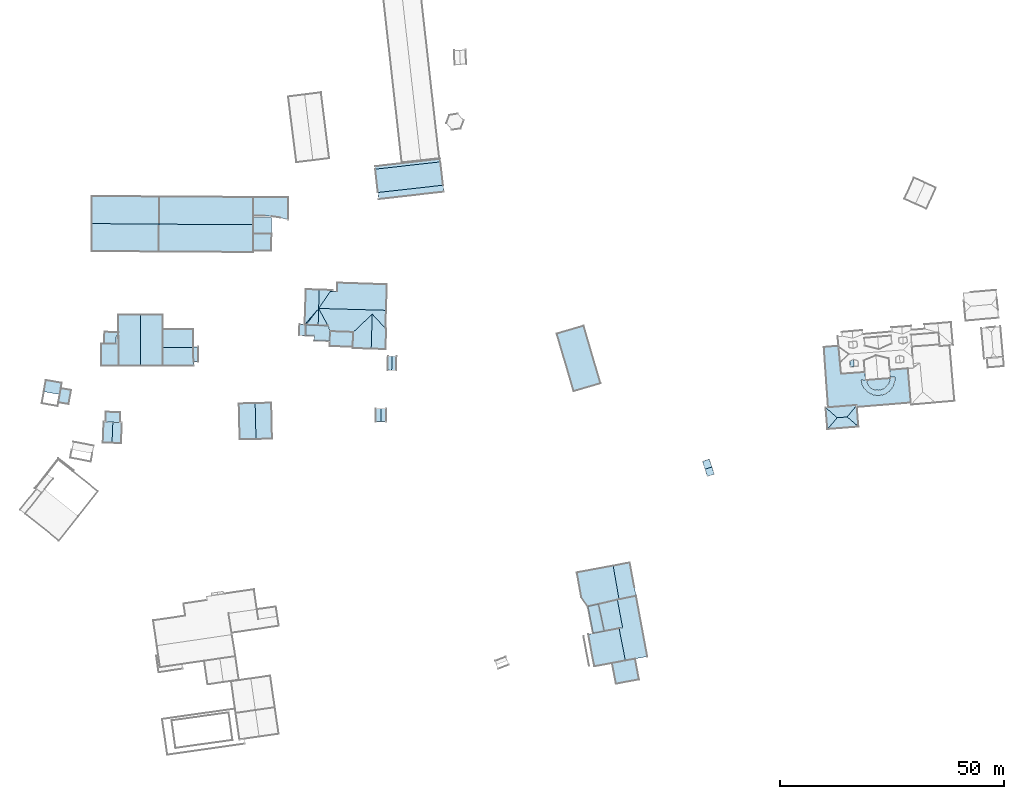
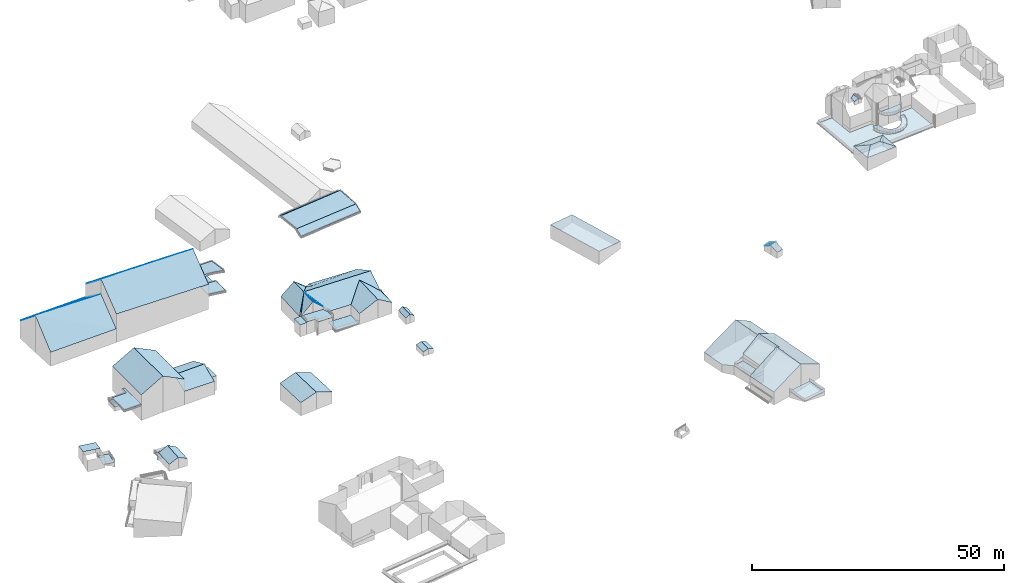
# Not in any storey, part 55 of 59: 56 roofs.
"""IFC4 building model written with IfcOpenShell, lengths in metres."""

from ifc_helpers import new_model, entity, si_unit, converted_unit, origin, place, context, subcontext, project, spatial, face_set, surface_model, element, save


model = new_model("IFC4")

# Units and contexts
model_context = context("Model", 3, precision=1e-05, world=origin())
body_context = subcontext(model_context, "Body", "Model", "MODEL_VIEW")
ifc_project = project(units=[converted_unit("PLANEANGLEUNIT", "DEGREE", entity("IfcRatioMeasure", 0.0174532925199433), si_unit("PLANEANGLEUNIT", "RADIAN"), dimensions=[0, 0, 0, 0, 0, 0, 0]), si_unit("AREAUNIT", "SQUARE_METRE"), si_unit("LENGTHUNIT", "METRE")], contexts=[model_context])

# Site, building
site_placement = place(None, origin())
site = spatial("IfcSite", under=ifc_project, at=site_placement, Name="_site")
building_1_placement = place(site_placement, origin())
building_1 = spatial("IfcBuilding", under=site, at=building_1_placement, Name="_building")

# Roofs
roof_1_placement = place(building_1_placement, origin())
element("IfcRoof", 1, at=roof_1_placement, inside=building_1, Name="Roof", PredefinedType="NOTDEFINED", context=body_context, shape_type="SurfaceModel", body=[
    surface_model("IfcFaceBasedSurfaceModel", [(66.73, 78.01, 213.7), (68.76, 77.93, 212.77), (68.96, 82.561, 212.75), (68.53, 82.58, 212.967), (66.92, 82.64, 213.78)], [face_set([[[0, 1, 2, 3, 4]]])]),
])
roof_2_placement = place(building_1_placement, origin())
element("IfcRoof", 2, at=roof_2_placement, inside=building_1, Name="Roof", PredefinedType="NOTDEFINED", context=body_context, shape_type="SurfaceModel", body=[
    surface_model("IfcFaceBasedSurfaceModel", [(65.29, 82.702, 211.075), (66.92, 82.64, 211.075), (68.53, 82.58, 211.075), (68.6, 84.85, 211.096), (65.36, 84.949, 211.096)], [face_set([[[0, 1, 2, 3, 4]]])]),
])
roof_3_placement = place(building_1_placement, origin())
element("IfcRoof", 3, at=roof_3_placement, inside=building_1, Name="Roof", PredefinedType="NOTDEFINED", context=body_context, shape_type="SurfaceModel", body=[
    surface_model("IfcFaceBasedSurfaceModel", [(66.92, 82.64, 213.78), (65.29, 82.702, 212.885), (64.88, 82.721, 212.66), (64.69, 78.1, 212.67), (66.73, 78.01, 213.7)], [face_set([[[0, 1, 2, 3, 4]]])]),
])

# Building
building_2_placement = place(site_placement, origin())
building_2 = spatial("IfcBuilding", under=site, at=building_2_placement, Name="_building")

# Roofs
roof_4_placement = place(building_2_placement, origin())
element("IfcRoof", 4, at=roof_4_placement, inside=building_2, Name="Roof", PredefinedType="NOTDEFINED", context=body_context, shape_type="SurfaceModel", body=[
    surface_model("IfcFaceBasedSurfaceModel", [(98.3, 128.42, 215.71), (98.28, 124.811, 215.71), (102.36, 124.779, 214.75), (102.38, 128.4, 214.75)], [face_set([[[0, 1, 2, 3]]])]),
])
roof_5_placement = place(building_2_placement, origin())
element("IfcRoof", 5, at=roof_5_placement, inside=building_2, Name="Roof", PredefinedType="NOTDEFINED", context=body_context, shape_type="SurfaceModel", body=[
    surface_model("IfcFaceBasedSurfaceModel", [(98.28, 124.76, 216.16), (98.26, 120.939, 216.16), (102.35, 120.92, 215.69), (102.37, 124.74, 215.69)], [face_set([[[0, 1, 2, 3]]])]),
])

# Building
building_3_placement = place(site_placement, origin())
building_3 = spatial("IfcBuilding", under=site, at=building_3_placement, Name="_building")

# Roofs
roof_6_placement = place(building_3_placement, origin())
element("IfcRoof", 6, at=roof_6_placement, inside=building_3, Name="Roof", PredefinedType="NOTDEFINED", context=body_context, shape_type="SurfaceModel", body=[
    surface_model("IfcFaceBasedSurfaceModel", [(199.24, 72.141, 222.3), (199.77, 70.52, 221.35), (201.3, 71.029, 221.35), (200.78, 72.641, 222.3)], [face_set([[[0, 1, 2, 3]]])]),
])
roof_7_placement = place(building_3_placement, origin())
element("IfcRoof", 7, at=roof_7_placement, inside=building_3, Name="Roof", PredefinedType="NOTDEFINED", context=body_context, shape_type="SurfaceModel", body=[
    surface_model("IfcFaceBasedSurfaceModel", [(200.78, 72.641, 222.3), (200.21, 74.381, 221.35), (198.67, 73.881, 221.35), (199.24, 72.141, 222.3)], [face_set([[[0, 1, 2, 3]]])]),
])

# Building
building_4_placement = place(site_placement, origin())
building_4 = spatial("IfcBuilding", under=site, at=building_4_placement, Name="_building")

# Roofs
roof_8_placement = place(building_4_placement, origin())
element("IfcRoof", 8, at=roof_8_placement, inside=building_4, Name="Roof", PredefinedType="NOTDEFINED", context=body_context, shape_type="SurfaceModel", body=[
    surface_model("IfcFaceBasedSurfaceModel", [(98.9, 78.859, 217.75), (102.51, 78.949, 216.52), (102.33, 86.971, 216.46), (98.71, 86.881, 217.76)], [face_set([[[0, 1, 2, 3]]])]),
])
roof_9_placement = place(building_4_placement, origin())
element("IfcRoof", 9, at=roof_9_placement, inside=building_4, Name="Roof", PredefinedType="NOTDEFINED", context=body_context, shape_type="SurfaceModel", body=[
    surface_model("IfcFaceBasedSurfaceModel", [(98.71, 86.881, 217.76), (95.09, 86.801, 216.45), (95.28, 78.779, 216.51), (98.9, 78.859, 217.75)], [face_set([[[0, 1, 2, 3]]])]),
])

# Building
building_5_placement = place(site_placement, origin())
building_5 = spatial("IfcBuilding", under=site, at=building_5_placement, Name="_building")

# Roofs
roof_10_placement = place(building_5_placement, origin())
element("IfcRoof", 10, at=roof_10_placement, inside=building_5, Name="Roof", PredefinedType="NOTDEFINED", context=body_context, shape_type="SurfaceModel", body=[
    surface_model("IfcFaceBasedSurfaceModel", [(64.99, 100.199, 213.082), (67.63, 100.199, 213.082), (67.62, 101.859, 213.082), (68.18, 101.859, 213.082), (68.18, 102.689, 213.082), (65.06, 102.83, 213.082)], [face_set([[[0, 1, 2, 3, 4, 5]]])]),
])
roof_11_placement = place(building_5_placement, origin())
element("IfcRoof", 11, at=roof_11_placement, inside=building_5, Name="Roof", PredefinedType="NOTDEFINED", context=body_context, shape_type="SurfaceModel", body=[
    surface_model("IfcFaceBasedSurfaceModel", [(68.19, 95.221, 215.66), (68.18, 101.859, 215.66), (67.62, 101.859, 215.66), (67.63, 100.199, 215.65), (64.28, 100.199, 215.59), (64.29, 95.211, 215.59)], [face_set([[[0, 1, 2, 3, 4, 5]]])]),
])

# Building
building_6_placement = place(site_placement, origin())
building_6 = spatial("IfcBuilding", under=site, at=building_6_placement, Name="_building")

# Roofs
roof_12_placement = place(building_6_placement, origin())
element("IfcRoof", 12, at=roof_12_placement, inside=building_6, Name="Roof", PredefinedType="NOTDEFINED", context=body_context, shape_type="SurfaceModel", body=[
    surface_model("IfcFaceBasedSurfaceModel", [(231.0, 83.82, 229.35), (228.76, 83.641, 229.35), (226.6, 81.08, 228.58), (233.54, 81.641, 228.5)], [face_set([[[0, 1, 2, 3]]])]),
])
roof_13_placement = place(building_6_placement, origin())
element("IfcRoof", 13, at=roof_13_placement, inside=building_6, Name="Roof", PredefinedType="NOTDEFINED", context=body_context, shape_type="SurfaceModel", body=[
    surface_model("IfcFaceBasedSurfaceModel", [(228.76, 83.641, 229.35), (226.21, 85.91, 228.59), (226.6, 81.08, 228.58)], [face_set([[[0, 1, 2]]])]),
])
roof_14_placement = place(building_6_placement, origin())
element("IfcRoof", 14, at=roof_14_placement, inside=building_6, Name="Roof", PredefinedType="NOTDEFINED", context=body_context, shape_type="SurfaceModel", body=[
    surface_model("IfcFaceBasedSurfaceModel", [(233.54, 81.641, 228.5), (233.188, 86.01, 228.5), (233.15, 86.461, 228.5), (231.0, 83.82, 229.35)], [face_set([[[0, 1, 2, 3]]])]),
])
roof_15_placement = place(building_6_placement, origin())
element("IfcRoof", 15, at=roof_15_placement, inside=building_6, Name="Roof", PredefinedType="NOTDEFINED", context=body_context, shape_type="SurfaceModel", body=[
    surface_model("IfcFaceBasedSurfaceModel", [(231.0, 83.82, 229.35), (233.15, 86.461, 228.5), (226.75, 85.951, 228.583), (226.21, 85.91, 228.59), (228.76, 83.641, 229.35)], [face_set([[[0, 1, 2, 3, 4]]])]),
])

# Building
building_7_placement = place(site_placement, origin())
building_7 = spatial("IfcBuilding", under=site, at=building_7_placement, Name="_building")

# Roofs
roof_16_placement = place(building_7_placement, origin())
element("IfcRoof", 16, at=roof_16_placement, inside=building_7, Name="Roof", PredefinedType="NOTDEFINED", context=body_context, shape_type="SurfaceModel", body=[
    surface_model("IfcFaceBasedSurfaceModel", [(240.651, 92.699, 226.71), (240.67, 92.461, 226.72), (240.58, 92.451, 226.73), (240.57, 92.02, 226.666), (240.3, 91.34, 226.577), (240.0, 90.85, 226.519), (239.61, 90.449, 226.479), (239.24, 90.15, 226.454), (238.83, 89.99, 226.452), (238.36, 89.83, 226.454), (237.91, 89.779, 226.473), (237.43, 89.811, 226.506), (236.87, 89.971, 226.565), (236.35, 90.24, 226.64), (235.92, 90.619, 226.728), (235.63, 91.09, 226.825), (235.41, 91.58, 226.885), (235.35, 92.039, 226.89), (235.11, 92.02, 226.86), (235.1, 92.15, 226.86), (234.13, 92.029, 226.852), (234.21, 91.49, 226.847), (234.4, 90.869, 226.81), (234.69, 90.34, 226.706), (235.13, 89.801, 226.592), (235.66, 89.34, 226.486), (236.26, 88.98, 226.394), (236.91, 88.74, 226.318), (237.41, 88.65, 226.275), (237.94, 88.631, 226.243), (238.57, 88.67, 226.214), (239.24, 88.85, 226.205), (239.86, 89.18, 226.223), (240.42, 89.561, 226.253), (240.97, 90.189, 226.321), (241.34, 90.84, 226.402), (241.56, 91.49, 226.491), (241.68, 92.109, 226.58), (241.65, 92.73, 226.676)], [face_set([[[0, 1, 2, 3, 4, 5, 6, 7, 8, 9, 10, 11, 12, 13, 14, 15, 16, 17, 18, 19, 20, 21, 22, 23, 24, 25, 26, 27, 28, 29, 30, 31, 32, 33, 34, 35, 36, 37, 38]]])]),
])
roof_17_placement = place(building_7_placement, origin())
element("IfcRoof", 17, at=roof_17_placement, inside=building_7, Name="Roof", PredefinedType="NOTDEFINED", context=body_context, shape_type="SurfaceModel", body=[
    surface_model("IfcFaceBasedSurfaceModel", [(240.58, 92.451, 229.819), (237.87, 92.23, 229.819), (235.35, 92.039, 229.819), (235.41, 91.58, 229.832), (235.63, 91.09, 229.832), (235.92, 90.619, 229.832), (236.35, 90.24, 229.832), (236.87, 89.971, 229.832), (237.43, 89.811, 229.832), (237.91, 89.779, 229.832), (238.36, 89.83, 229.832), (238.83, 89.99, 229.832), (239.24, 90.15, 229.832), (239.61, 90.449, 229.832), (240.0, 90.85, 229.832), (240.3, 91.34, 229.832), (240.57, 92.02, 229.832)], [face_set([[[0, 1, 2, 3, 4, 5, 6, 7, 8, 9, 10, 11, 12, 13, 14, 15, 16]]])]),
])
roof_18_placement = place(building_7_placement, origin())
element("IfcRoof", 18, at=roof_18_placement, inside=building_7, Name="Roof", PredefinedType="NOTDEFINED", context=body_context, shape_type="SurfaceModel", body=[
    surface_model("IfcFaceBasedSurfaceModel", [(232.58, 95.09, 232.29), (232.41, 96.699, 232.491), (231.56, 96.221, 232.133), (231.66, 95.01, 231.96)], [face_set([[[0, 1, 2, 3]]])]),
])
roof_19_placement = place(building_7_placement, origin())
element("IfcRoof", 19, at=roof_19_placement, inside=building_7, Name="Roof", PredefinedType="NOTDEFINED", context=body_context, shape_type="SurfaceModel", body=[
    surface_model("IfcFaceBasedSurfaceModel", [(226.75, 85.951, 226.16), (233.15, 86.461, 226.165), (233.188, 86.01, 226.165), (245.24, 87.0, 226.18), (244.58, 94.66, 226.183), (240.53, 94.311, 226.183), (240.651, 92.699, 226.17), (241.65, 92.73, 226.17), (241.68, 92.109, 226.17), (241.34, 90.84, 226.17), (240.97, 90.189, 226.17), (240.42, 89.561, 226.17), (239.24, 88.85, 226.17), (238.57, 88.67, 226.17), (237.94, 88.631, 226.17), (237.41, 88.65, 226.17), (236.91, 88.74, 226.17), (236.26, 88.98, 226.17), (235.66, 89.34, 226.17), (235.13, 89.801, 226.17), (234.69, 90.34, 226.17), (234.4, 90.869, 226.17), (234.21, 91.49, 226.17), (234.13, 92.029, 226.17), (235.1, 92.15, 226.163), (234.96, 93.82, 226.163), (229.67, 93.439, 226.163), (229.42, 95.902, 226.163), (229.102, 99.438, 226.163), (229.079, 99.689, 226.16), (225.81, 99.41, 226.16)], [face_set([[[0, 1, 2, 3, 4, 5, 6, 7, 8, 9, 10, 11, 12, 13, 14, 15, 16, 17, 18, 19, 20, 21, 22, 23, 24, 25, 26, 27, 28, 29, 30]]])]),
])

# Building
building_8_placement = place(site_placement, origin())
building_8 = spatial("IfcBuilding", under=site, at=building_8_placement, Name="_building")

# Roofs
roof_20_placement = place(building_8_placement, origin())
element("IfcRoof", 20, at=roof_20_placement, inside=building_8, Name="Roof", PredefinedType="NOTDEFINED", context=body_context, shape_type="SurfaceModel", body=[
    surface_model("IfcFaceBasedSurfaceModel", [(55.06, 88.83, 213.45), (55.51, 91.41, 213.16), (51.96, 92.039, 213.16), (51.51, 89.461, 213.45)], [face_set([[[0, 1, 2, 3]]])]),
])
roof_21_placement = place(building_8_placement, origin())
element("IfcRoof", 21, at=roof_21_placement, inside=building_8, Name="Roof", PredefinedType="NOTDEFINED", context=body_context, shape_type="SurfaceModel", body=[
    surface_model("IfcFaceBasedSurfaceModel", [(54.75, 87.061, 210.66), (57.04, 86.66, 210.66), (57.59, 89.811, 210.66), (55.3, 90.211, 210.66)], [face_set([[[0, 1, 2, 3]]])]),
])

# Building
building_9_placement = place(site_placement, origin())
building_9 = spatial("IfcBuilding", under=site, at=building_9_placement, Name="_building")

# Roofs
roof_22_placement = place(building_9_placement, origin())
element("IfcRoof", 22, at=roof_22_placement, inside=building_9, Name="Roof", PredefinedType="NOTDEFINED", context=body_context, shape_type="SurfaceModel", body=[
    surface_model("IfcFaceBasedSurfaceModel", [(73.1, 106.66, 220.74), (68.17, 106.66, 217.98), (68.19, 95.221, 217.93), (73.11, 95.221, 220.74)], [face_set([[[0, 1, 2, 3]]])]),
])
roof_23_placement = place(building_9_placement, origin())
element("IfcRoof", 23, at=roof_23_placement, inside=building_9, Name="Roof", PredefinedType="NOTDEFINED", context=body_context, shape_type="SurfaceModel", body=[
    surface_model("IfcFaceBasedSurfaceModel", [(78.04, 99.32, 216.88), (78.04, 95.221, 215.31), (84.94, 95.23, 215.31), (84.94, 96.17, 215.71), (84.93, 99.33, 217.09)], [face_set([[[0, 1, 2, 3, 4]]])]),
])
roof_24_placement = place(building_9_placement, origin())
element("IfcRoof", 24, at=roof_24_placement, inside=building_9, Name="Roof", PredefinedType="NOTDEFINED", context=body_context, shape_type="SurfaceModel", body=[
    surface_model("IfcFaceBasedSurfaceModel", [(84.93, 99.33, 217.09), (84.93, 99.49, 217.02), (84.93, 103.43, 215.31), (78.04, 103.42, 215.31), (78.04, 99.32, 216.88)], [face_set([[[0, 1, 2, 3, 4]]])]),
])
roof_25_placement = place(building_9_placement, origin())
element("IfcRoof", 25, at=roof_25_placement, inside=building_9, Name="Roof", PredefinedType="NOTDEFINED", context=body_context, shape_type="SurfaceModel", body=[
    surface_model("IfcFaceBasedSurfaceModel", [(84.93, 99.49, 215.83), (84.93, 99.33, 215.824), (84.94, 96.17, 215.7), (86.0, 96.17, 215.73), (86.0, 99.49, 215.78)], [face_set([[[0, 1, 2, 3, 4]]])]),
])
roof_26_placement = place(building_9_placement, origin())
element("IfcRoof", 26, at=roof_26_placement, inside=building_9, Name="Roof", PredefinedType="NOTDEFINED", context=body_context, shape_type="SurfaceModel", body=[
    surface_model("IfcFaceBasedSurfaceModel", [(73.11, 95.221, 220.74), (78.04, 95.221, 218.32), (78.04, 99.32, 218.335), (78.04, 103.42, 218.35), (78.03, 106.67, 218.36), (73.1, 106.66, 220.74)], [face_set([[[0, 1, 2, 3, 4, 5]]])]),
])

# Building
building_10_placement = place(site_placement, origin())
building_10 = spatial("IfcBuilding", under=site, at=building_10_placement, Name="_building")

# Roofs
roof_27_placement = place(building_10_placement, origin())
element("IfcRoof", 27, at=roof_27_placement, inside=building_10, Name="Roof", PredefinedType="NOTDEFINED", context=body_context, shape_type="SurfaceModel", body=[
    surface_model("IfcFaceBasedSurfaceModel", [(178.71, 50.561, 224.56), (170.62, 49.051, 220.44), (171.61, 43.57, 220.36), (173.07, 41.461, 220.87), (175.45, 42.0, 222.17), (179.66, 42.948, 224.376), (180.03, 43.028, 224.57)], [face_set([[[0, 1, 2, 3, 4, 5, 6]]])]),
])
roof_28_placement = place(building_10_placement, origin())
element("IfcRoof", 28, at=roof_28_placement, inside=building_10, Name="Roof", PredefinedType="NOTDEFINED", context=body_context, shape_type="SurfaceModel", body=[
    surface_model("IfcFaceBasedSurfaceModel", [(180.04, 36.561, 226.04), (176.75, 35.941, 224.161), (174.26, 35.48, 222.74), (173.17, 35.27, 222.11), (174.52, 28.07, 222.11), (181.44, 29.369, 225.69)], [face_set([[[0, 1, 2, 3, 4, 5]]])]),
])
roof_29_placement = place(building_10_placement, origin())
element("IfcRoof", 29, at=roof_29_placement, inside=building_10, Name="Roof", PredefinedType="NOTDEFINED", context=body_context, shape_type="SurfaceModel", body=[
    surface_model("IfcFaceBasedSurfaceModel", [(180.03, 43.028, 224.57), (183.83, 43.811, 222.52), (182.44, 51.26, 222.51), (178.71, 50.561, 224.56)], [face_set([[[0, 1, 2, 3]]])]),
])
roof_30_placement = place(building_10_placement, origin())
element("IfcRoof", 30, at=roof_30_placement, inside=building_10, Name="Roof", PredefinedType="NOTDEFINED", context=body_context, shape_type="SurfaceModel", body=[
    surface_model("IfcFaceBasedSurfaceModel", [(179.66, 42.948, 225.5), (175.45, 42.0, 222.65), (176.75, 35.941, 222.28), (180.04, 36.561, 224.893), (180.83, 36.711, 225.52)], [face_set([[[0, 1, 2, 3, 4]]])]),
])
roof_31_placement = place(building_10_placement, origin())
element("IfcRoof", 31, at=roof_31_placement, inside=building_10, Name="Roof", PredefinedType="NOTDEFINED", context=body_context, shape_type="SurfaceModel", body=[
    surface_model("IfcFaceBasedSurfaceModel", [(178.49, 28.82, 220.545), (179.36, 24.18, 220.545), (184.5, 25.15, 220.545), (183.63, 29.779, 220.545)], [face_set([[[0, 1, 2, 3]]])]),
])
roof_32_placement = place(building_10_placement, origin())
element("IfcRoof", 32, at=roof_32_placement, inside=building_10, Name="Roof", PredefinedType="NOTDEFINED", context=body_context, shape_type="SurfaceModel", body=[
    surface_model("IfcFaceBasedSurfaceModel", [(176.75, 35.939, 220.96), (175.45, 42.0, 220.96), (173.07, 41.461, 220.96), (174.26, 35.48, 220.96)], [face_set([[[0, 1, 2, 3]]])]),
])
roof_33_placement = place(building_10_placement, origin())
element("IfcRoof", 33, at=roof_33_placement, inside=building_10, Name="Roof", PredefinedType="NOTDEFINED", context=body_context, shape_type="SurfaceModel", body=[
    surface_model("IfcFaceBasedSurfaceModel", [(174.26, 35.48, 220.78), (176.75, 35.941, 220.76), (175.45, 42.0, 220.76), (173.07, 41.461, 220.87)], [face_set([[[0, 1, 2, 3]]])]),
])
roof_34_placement = place(building_10_placement, origin())
element("IfcRoof", 34, at=roof_34_placement, inside=building_10, Name="Roof", PredefinedType="NOTDEFINED", context=body_context, shape_type="SurfaceModel", body=[
    surface_model("IfcFaceBasedSurfaceModel", [(180.83, 36.711, 225.52), (180.04, 36.561, 226.04), (181.44, 29.369, 225.69), (186.37, 30.289, 223.39), (183.83, 43.811, 223.46), (180.03, 43.028, 225.319), (179.66, 42.948, 225.5)], [face_set([[[0, 1, 2, 3, 4, 5, 6]]])]),
])

# Building
building_11_placement = place(site_placement, origin())
building_11 = spatial("IfcBuilding", under=site, at=building_11_placement, Name="_building")

# Roof
roof_35_placement = place(building_11_placement, origin())
element("IfcRoof", 35, at=roof_35_placement, inside=building_11, Name="Roof", PredefinedType="NOTDEFINED", context=body_context, shape_type="SurfaceModel", body=[
    surface_model("IfcFaceBasedSurfaceModel", [(169.91, 89.57, 220.55), (175.89, 91.33, 219.84), (172.13, 104.17, 219.84), (166.14, 102.41, 220.55)], [face_set([[[0, 1, 2, 3]]])]),
])

# Building
building_12_placement = place(site_placement, origin())
building_12 = spatial("IfcBuilding", under=site, at=building_12_placement, Name="_building")

# Roofs
roof_36_placement = place(building_12_placement, origin())
element("IfcRoof", 36, at=roof_36_placement, inside=building_12, Name="Roof", PredefinedType="NOTDEFINED", context=body_context, shape_type="SurfaceModel", body=[
    surface_model("IfcFaceBasedSurfaceModel", [(127.84, 103.59, 217.27), (127.98, 107.641, 219.6), (112.9, 108.061, 219.51), (115.01, 104.15, 217.53), (115.48, 102.949, 216.86), (120.64, 102.77, 216.87), (124.88, 106.789, 218.97)], [face_set([[[0, 1, 2, 3, 4, 5, 6]]])]),
])
roof_37_placement = place(building_12_placement, origin())
element("IfcRoof", 37, at=roof_37_placement, inside=building_12, Name="Roof", PredefinedType="NOTDEFINED", context=body_context, shape_type="SurfaceModel", body=[
    surface_model("IfcFaceBasedSurfaceModel", [(112.9, 108.061, 219.445), (113.02, 112.24, 219.44), (110.06, 112.34, 216.8), (109.79, 104.461, 216.79), (110.07, 104.391, 216.76), (112.79, 104.259, 219.45)], [face_set([[[0, 1, 2, 3, 4, 5]]])]),
])
roof_38_placement = place(building_12_placement, origin())
element("IfcRoof", 38, at=roof_38_placement, inside=building_12, Name="Roof", PredefinedType="NOTDEFINED", context=body_context, shape_type="SurfaceModel", body=[
    surface_model("IfcFaceBasedSurfaceModel", [(124.88, 106.789, 218.97), (120.64, 102.77, 216.87), (120.52, 99.18, 216.92), (124.64, 99.051, 219.0)], [face_set([[[0, 1, 2, 3]]])]),
])
roof_39_placement = place(building_12_placement, origin())
element("IfcRoof", 39, at=roof_39_placement, inside=building_12, Name="Roof", PredefinedType="NOTDEFINED", context=body_context, shape_type="SurfaceModel", body=[
    surface_model("IfcFaceBasedSurfaceModel", [(124.88, 106.789, 218.97), (124.64, 99.051, 219.0), (127.87, 98.939, 217.17), (128.03, 103.58, 217.27), (127.84, 103.59, 217.27)], [face_set([[[0, 1, 2, 3, 4]]])]),
])
roof_40_placement = place(building_12_placement, origin())
element("IfcRoof", 40, at=roof_40_placement, inside=building_12, Name="Roof", PredefinedType="NOTDEFINED", context=body_context, shape_type="SurfaceModel", body=[
    surface_model("IfcFaceBasedSurfaceModel", [(120.53, 99.461, 214.37), (120.64, 102.77, 214.37), (115.48, 102.949, 214.37), (115.36, 99.641, 214.37)], [face_set([[[0, 1, 2, 3]]])]),
])
roof_41_placement = place(building_12_placement, origin())
element("IfcRoof", 41, at=roof_41_placement, inside=building_12, Name="Roof", PredefinedType="NOTDEFINED", context=body_context, shape_type="SurfaceModel", body=[
    surface_model("IfcFaceBasedSurfaceModel", [(110.03, 101.99, 216.71), (111.93, 101.92, 216.83), (111.9, 100.869, 216.83), (115.4, 100.76, 216.86), (115.48, 102.949, 216.86), (115.01, 104.15, 216.856), (112.79, 104.259, 216.808), (110.07, 104.391, 216.76)], [face_set([[[0, 1, 2, 3, 4, 5, 6, 7]]])]),
])
roof_42_placement = place(building_12_placement, origin())
element("IfcRoof", 42, at=roof_42_placement, inside=building_12, Name="Roof", PredefinedType="NOTDEFINED", context=body_context, shape_type="SurfaceModel", body=[
    surface_model("IfcFaceBasedSurfaceModel", [(115.15, 100.77, 216.89), (115.4, 100.76, 216.89), (115.48, 102.949, 216.89), (115.01, 104.15, 216.89), (112.79, 104.26, 216.89), (110.07, 104.391, 216.89), (110.03, 101.99, 216.89), (111.93, 101.92, 216.89), (111.9, 100.869, 216.89), (111.93, 100.869, 216.89)], [face_set([[[0, 1, 2, 3, 4, 5, 6, 7, 8, 9]]])]),
])
roof_43_placement = place(building_12_placement, origin())
element("IfcRoof", 43, at=roof_43_placement, inside=building_12, Name="Roof", PredefinedType="NOTDEFINED", context=body_context, shape_type="SurfaceModel", body=[
    surface_model("IfcFaceBasedSurfaceModel", [(116.04, 111.949, 217.2), (116.05, 112.141, 217.13), (113.02, 112.24, 219.44), (112.9, 108.061, 219.445), (115.52, 111.881, 217.43)], [face_set([[[0, 1, 2, 3, 4]]])]),
])
roof_44_placement = place(building_12_placement, origin())
element("IfcRoof", 44, at=roof_44_placement, inside=building_12, Name="Roof", PredefinedType="NOTDEFINED", context=body_context, shape_type="SurfaceModel", body=[
    surface_model("IfcFaceBasedSurfaceModel", [(112.79, 104.259, 219.45), (115.01, 104.15, 217.53), (112.9, 108.061, 219.445)], [face_set([[[0, 1, 2]]])]),
])
roof_45_placement = place(building_12_placement, origin())
element("IfcRoof", 45, at=roof_45_placement, inside=building_12, Name="Roof", PredefinedType="NOTDEFINED", context=body_context, shape_type="SurfaceModel", body=[
    surface_model("IfcFaceBasedSurfaceModel", [(110.07, 104.391, 216.76), (109.79, 104.461, 216.79), (108.63, 104.5, 216.61), (108.55, 102.039, 216.61), (110.03, 101.99, 216.71)], [face_set([[[0, 1, 2, 3, 4]]])]),
])
roof_46_placement = place(building_12_placement, origin())
element("IfcRoof", 46, at=roof_46_placement, inside=building_12, Name="Roof", PredefinedType="NOTDEFINED", context=body_context, shape_type="SurfaceModel", body=[
    surface_model("IfcFaceBasedSurfaceModel", [(127.98, 107.641, 219.6), (128.17, 113.42, 216.39), (117.11, 113.789, 216.42), (117.05, 111.91, 217.2), (116.04, 111.949, 217.2), (115.52, 111.881, 217.43), (112.9, 108.061, 219.51)], [face_set([[[0, 1, 2, 3, 4, 5, 6]]])]),
])

# Building
building_13_placement = place(site_placement, origin())
building_13 = spatial("IfcBuilding", under=site, at=building_13_placement, Name="_building")

# Roofs
roof_47_placement = place(building_13_placement, origin())
element("IfcRoof", 47, at=roof_47_placement, inside=building_13, Name="Roof", PredefinedType="NOTDEFINED", context=body_context, shape_type="SurfaceModel", body=[
    surface_model("IfcFaceBasedSurfaceModel", [(77.23, 126.9, 223.6), (77.19, 120.76, 218.89), (98.26, 120.631, 218.84), (98.29, 126.77, 223.61)], [face_set([[[0, 1, 2, 3]]])]),
])
roof_48_placement = place(building_13_placement, origin())
element("IfcRoof", 48, at=roof_48_placement, inside=building_13, Name="Roof", PredefinedType="NOTDEFINED", context=body_context, shape_type="SurfaceModel", body=[
    surface_model("IfcFaceBasedSurfaceModel", [(62.21, 127.02, 219.97), (62.17, 120.85, 214.83), (77.19, 120.76, 215.32), (77.23, 126.9, 219.97)], [face_set([[[0, 1, 2, 3]]])]),
])
roof_49_placement = place(building_13_placement, origin())
element("IfcRoof", 49, at=roof_49_placement, inside=building_13, Name="Roof", PredefinedType="NOTDEFINED", context=body_context, shape_type="SurfaceModel", body=[
    surface_model("IfcFaceBasedSurfaceModel", [(77.23, 126.9, 219.97), (77.26, 133.051, 215.48), (62.24, 133.141, 215.0), (62.21, 127.02, 219.97)], [face_set([[[0, 1, 2, 3]]])]),
])
roof_50_placement = place(building_13_placement, origin())
element("IfcRoof", 50, at=roof_50_placement, inside=building_13, Name="Roof", PredefinedType="NOTDEFINED", context=body_context, shape_type="SurfaceModel", body=[
    surface_model("IfcFaceBasedSurfaceModel", [(98.29, 126.77, 223.61), (98.33, 132.92, 218.71), (77.26, 133.051, 218.77), (77.23, 126.9, 223.6)], [face_set([[[0, 1, 2, 3]]])]),
])

# Building
building_14_placement = place(site_placement, origin())
building_14 = spatial("IfcBuilding", under=site, at=building_14_placement, Name="_building")

# Roofs
roof_51_placement = place(building_14_placement, origin())
element("IfcRoof", 51, at=roof_51_placement, inside=building_14, Name="Roof", PredefinedType="NOTDEFINED", context=body_context, shape_type="SurfaceModel", body=[
    surface_model("IfcFaceBasedSurfaceModel", [(126.82, 85.65, 216.18), (125.68, 85.65, 215.75), (125.69, 82.75, 215.75), (126.84, 82.76, 216.18)], [face_set([[[0, 1, 2, 3]]])]),
])
roof_52_placement = place(building_14_placement, origin())
element("IfcRoof", 52, at=roof_52_placement, inside=building_14, Name="Roof", PredefinedType="NOTDEFINED", context=body_context, shape_type="SurfaceModel", body=[
    surface_model("IfcFaceBasedSurfaceModel", [(126.84, 82.76, 216.18), (128.02, 82.76, 215.75), (128.01, 85.66, 215.75), (126.82, 85.65, 216.18)], [face_set([[[0, 1, 2, 3]]])]),
])

# Building
building_15_placement = place(site_placement, origin())
building_15 = spatial("IfcBuilding", under=site, at=building_15_placement, Name="_building")

# Roof
roof_53_placement = place(building_15_placement, origin())
element("IfcRoof", 53, at=roof_53_placement, inside=building_15, Name="Roof", PredefinedType="NOTDEFINED", context=body_context, shape_type="SurfaceModel", body=[
    surface_model("IfcFaceBasedSurfaceModel", [(98.33, 132.92, 214.26), (98.3, 128.82, 214.97), (100.86, 128.721, 214.97), (102.45, 128.631, 214.98), (104.33, 128.359, 215.01), (106.11, 127.881, 215.01), (106.1, 132.92, 214.26)], [face_set([[[0, 1, 2, 3, 4, 5, 6]]])]),
])

# Building
building_16_placement = place(site_placement, origin())
building_16 = spatial("IfcBuilding", under=site, at=building_16_placement, Name="_building")

# Roofs
roof_54_placement = place(building_16_placement, origin())
element("IfcRoof", 54, at=roof_54_placement, inside=building_16, Name="Roof", PredefinedType="NOTDEFINED", context=body_context, shape_type="SurfaceModel", body=[
    surface_model("IfcFaceBasedSurfaceModel", [(129.3, 97.41, 216.67), (128.4, 97.43, 216.06), (128.33, 94.26, 216.06), (129.23, 94.24, 216.67)], [face_set([[[0, 1, 2, 3]]])]),
])
roof_55_placement = place(building_16_placement, origin())
element("IfcRoof", 55, at=roof_55_placement, inside=building_16, Name="Roof", PredefinedType="NOTDEFINED", context=body_context, shape_type="SurfaceModel", body=[
    surface_model("IfcFaceBasedSurfaceModel", [(129.23, 94.24, 216.67), (130.23, 94.221, 216.06), (130.3, 97.391, 216.06), (129.3, 97.41, 216.67)], [face_set([[[0, 1, 2, 3]]])]),
])

# Building
building_17_placement = place(site_placement, origin())
building_17 = spatial("IfcBuilding", under=site, at=building_17_placement, Name="_building")

# Roof
roof_56_placement = place(building_17_placement, origin())
element("IfcRoof", 56, at=roof_56_placement, inside=building_17, Name="Roof", PredefinedType="NOTDEFINED", context=body_context, shape_type="SurfaceModel", body=[
    surface_model("IfcFaceBasedSurfaceModel", [(126.33, 132.471, 213.42), (140.88, 134.131, 213.43), (140.71, 135.6, 214.39), (140.11, 140.82, 214.73), (140.04, 141.461, 214.3), (125.5, 139.801, 214.29), (125.57, 139.18, 214.62), (126.16, 133.971, 214.43)], [face_set([[[0, 1, 2, 3, 4, 5, 6, 7]]])]),
])

save(model, "model.ifc")
